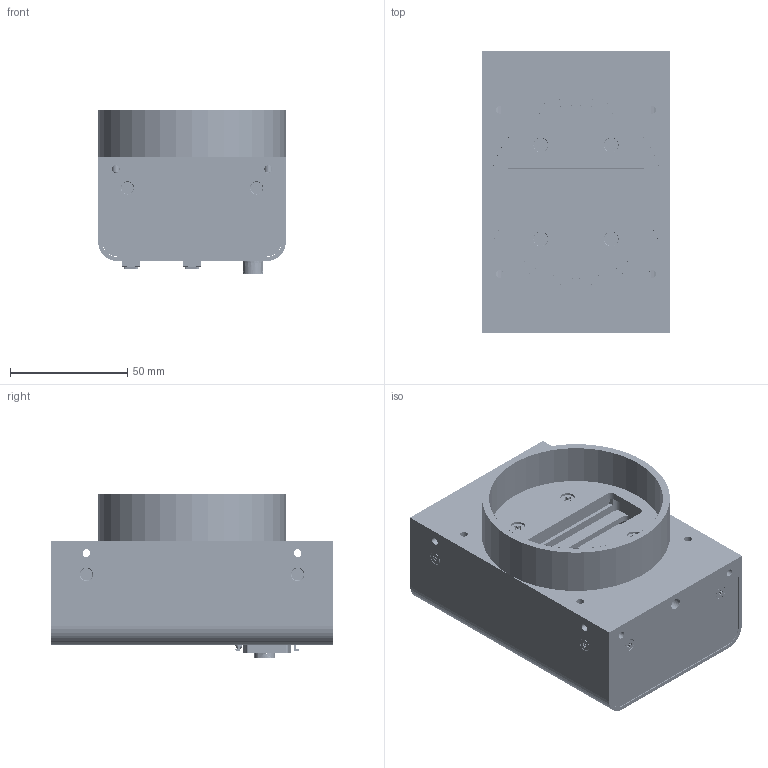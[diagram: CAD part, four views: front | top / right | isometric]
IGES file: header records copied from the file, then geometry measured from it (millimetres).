
Start section: SolidWorks IGES file using analytic representation for surfaces
Global section: file name: 8H\\192.168.1.250\技術部cad管理\CAD\Line Scan Camera\XCM8085DLMT8\2.外形図・組立図\C7-1011-00-48／XCM8085DLMT8外形図.IGS; native system: SolidWorks 2020; preprocessor: SolidWorks 2020; author: shomm; date: 230217.092742; units: millimetre
Bounding box: 80 x 120 x 69.45 mm (x, y, z)
Surface area: 64680 mm2 (no closed solid volume)
Topology: 0 solids, 0 shells, 4940 faces, 62237 edges, 62235 vertices
Faces by surface type: bspline 4670, revolution 270
